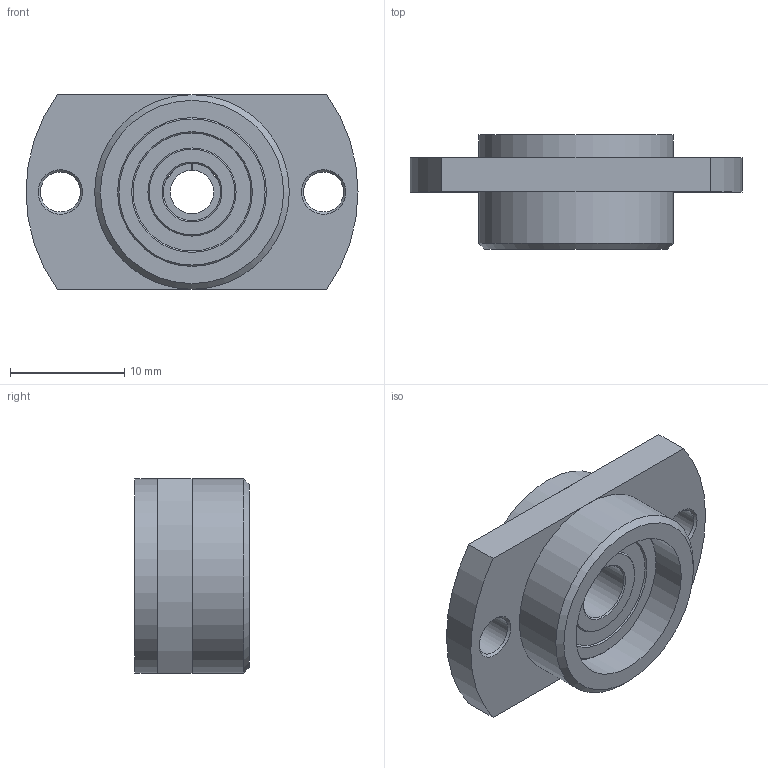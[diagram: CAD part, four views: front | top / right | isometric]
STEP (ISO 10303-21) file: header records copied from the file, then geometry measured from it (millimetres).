
FILE_DESCRIPTION((''),'1');
FILE_NAME('H:/図庫/国内ﾕﾆｯﾄ/ｻﾎﾟｰﾄﾕﾆｯﾄ/ホームページ用ＣＡＤ図面/3D/MSU-5GS_HP.stp','2016-11-24T01:30:56',(''),(''),'Spatial Interop R21 SP3','Kubotek KeyCreator 2011 V10.0.2 (22737)',' ');
FILE_SCHEMA(('automotive_design'));
Length unit declared in the file: millimetre
Products named in the file (61): Unnamed[1]
Bounding box: 29 x 10 x 17 mm (x, y, z)
Surface area: 1877.9 mm2 (no closed solid volume)
Topology: 0 solids, 61 shells, 61 faces, 256 edges, 236 vertices
Faces by surface type: plane 31, cylinder 17, cone 13
Full cylindrical faces by diameter (mm): 3.5 x2, 5 x1, 13 x2, 17 x2
Entity records: 5136 total; most frequent: DIRECTION 592, CARTESIAN_POINT 582, PRESENTATION_STYLE_ASSIGNMENT 244, COLOUR_RGB 244, AXIS2_PLACEMENT_3D 240, ORIENTED_EDGE 230, EDGE_CURVE 230, VERTEX_POINT 230
